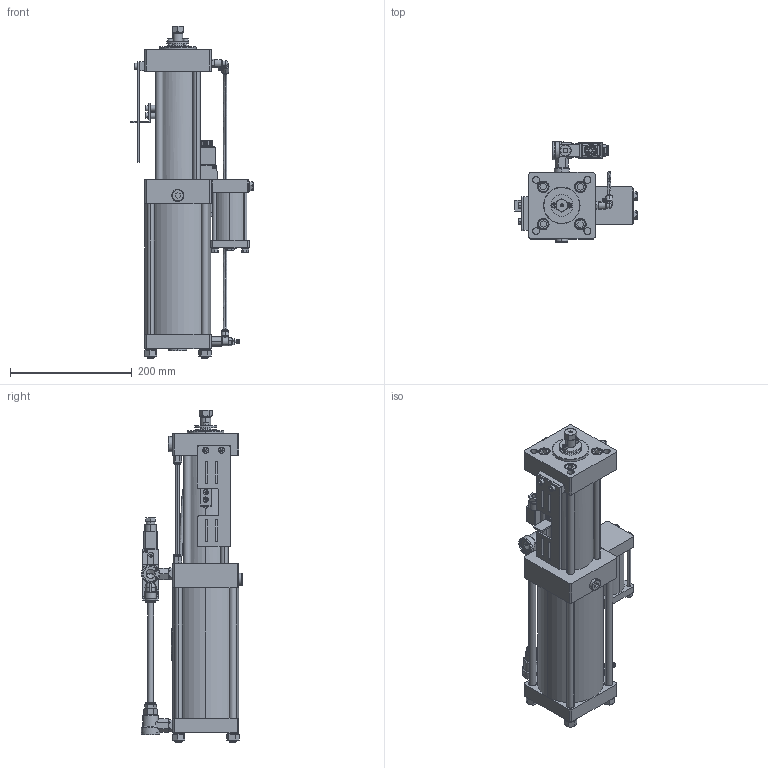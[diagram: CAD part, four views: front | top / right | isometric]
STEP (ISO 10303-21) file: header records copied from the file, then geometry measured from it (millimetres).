
FILE_DESCRIPTION (( 'STEP AP203' ), '1' );
FILE_NAME ('PCT4 10036 VC15.STEP', '2017-12-05T06:34:34', ( '' ), ( '' ), 'SwSTEP 2.0', 'SolidWorks 2015', '' );
FILE_SCHEMA (( 'CONFIG_CONTROL_DESIGN' ));
Length unit declared in the file: millimetre
Products named in the file (39): INT REC; spring lock washer 6735_is_IS 6735- 12; Janatics-Male elbow_Male elbow; 1 8 BSP PU 6_Janatics-Male connector_Male connector; CONTAINER PRA-03; GASKET; hexagon nut style 1_is_IS 1364-3 - M12-W-N; Part1^PCT; Part2^PCT; plain washer (type a)_is_IS 2016 A- 9; INT TUBE; PCT4 10036 VC15; 18Janatics-Male elbow_Male threaded nipple_Dia 6 x 18; Janatics-WN015152WN015152_WN015152; hexagon fit bolt_is_IS 3640 - M8 x 25 x 14.5-N; INT FEC; 18Janatics-Male elbow_elbow_DIA 6; Janatics-WN015151WN015151_WN015151; QEV; INT TR; 18Janatics-Male elbow_Collet cap_DIA 6; DC VALVE-Janatics-DEFAULT_DS255SR61; (normal) internal_is_IS 3075(Part2) NI- 26; spring lock washer 6735_is_IS 6735- 6; PCT CYL_PCT4 10036 VC15; 1 8 BSP FCV-Janatics-GR2_GR1105006; Janatics-Male elbow_elbow_DIA 10; 1 4 BSP QEV; hexagon nut_is_IS 1363-2 - M6-N; socket head cap screw_is_IS 2269 - M5 x 8-N; Part3^PCT; Janatics-Male elbow_Collet cap_DIA 10; Janatics-Male connector_housing MC_WP2110650; 3 8 BSP PLUG; socket head cap screw_is_IS 2269 - M6 x 10-N; Part4^PCT; Janatics-Male elbow_Male threaded nipple_Dia 10 x 14; Janatics-Male connector_Collet cap_DIA 6; SILENCER
Assembly tree (69 placements, depth 3):
  PCT4 10036 VC15
    PCT CYL_PCT4 10036 VC15
    socket head cap screw_is_IS 2269 - M5 x 8-N  x4
    socket head cap screw_is_IS 2269 - M6 x 10-N  x2
    CONTAINER PRA-03
      INT REC
      GASKET  x2
      INT TUBE
      INT FEC
      INT TR  x4
      spring lock washer 6735_is_IS 6735- 6  x4
      hexagon nut_is_IS 1363-2 - M6-N  x4
      3 8 BSP PLUG
      SILENCER
    plain washer (type a)_is_IS 2016 A- 9  x2
    hexagon fit bolt_is_IS 3640 - M8 x 25 x 14.5-N  x2
    1 4 BSP QEV
      QEV
      (normal) internal_is_IS 3075(Part2) NI- 26
    QEV
    1 8 BSP PU 6_Janatics-Male connector_Male connector  x2
      Janatics-Male connector_housing MC_WP2110650
      Janatics-Male connector_Collet cap_DIA 6
    Part2^PCT
    Janatics-WN015152WN015152_WN015152  x2
    Janatics-WN015151WN015151_WN015151
    DC VALVE-Janatics-DEFAULT_DS255SR61
    (normal) internal_is_IS 3075(Part2) NI- 26
    Janatics-Male elbow_Male elbow
      Janatics-Male elbow_elbow_DIA 10
      Janatics-Male elbow_Collet cap_DIA 10
      Janatics-Male elbow_Male threaded nipple_Dia 10 x 14
    Janatics-Male elbow_Collet cap_DIA 10  x2
    Janatics-Male elbow_Male threaded nipple_Dia 10 x 14  x2
    Part1^PCT
    SILENCER  x2
    18Janatics-Male elbow_Male threaded nipple_Dia 6 x 18
    18Janatics-Male elbow_elbow_DIA 6
    18Janatics-Male elbow_Collet cap_DIA 6
    1 8 BSP FCV-Janatics-GR2_GR1105006
    Part4^PCT
    spring lock washer 6735_is_IS 6735- 12  x4
    hexagon nut style 1_is_IS 1364-3 - M12-W-N  x4
  Part3^PCT
Bounding box: 200.6 x 166 x 545 mm (x, y, z)
Volume: 4489749.5 mm3; surface area: 582480.6 mm2
Topology: 87 solids, 88 shells, 4349 faces, 10948 edges, 6919 vertices
Faces by surface type: plane 1938, cylinder 1348, cone 726, torus 177, bspline 145, sphere 15
Entity records: 107626 total; most frequent: CARTESIAN_POINT 25865, ORIENTED_EDGE 16104, DIRECTION 15987, EDGE_CURVE 8052, AXIS2_PLACEMENT_3D 5844, VERTEX_POINT 5148, LINE 4299, VECTOR 4299
